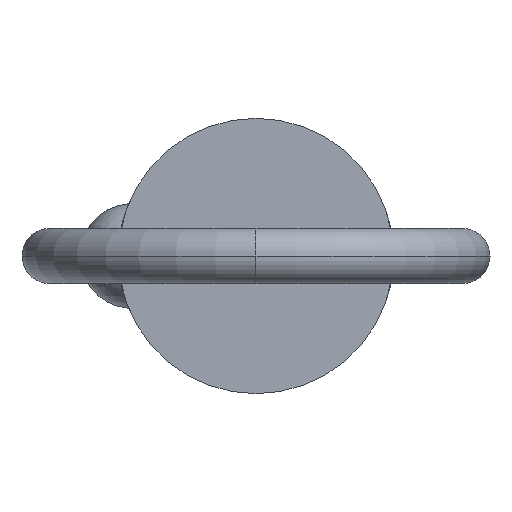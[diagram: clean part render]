
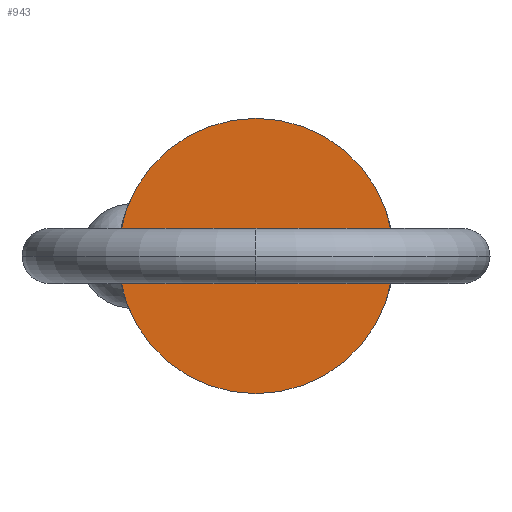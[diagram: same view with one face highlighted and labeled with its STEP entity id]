
A CAD part, left-side view. The second image highlights one B-rep face of the part: STEP entity #943.
In plain terms, the highlighted planar face has unit normal (-1, 0, 0).
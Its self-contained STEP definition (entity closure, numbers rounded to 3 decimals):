
#27 = FACE_OUTER_BOUND ( 'NONE', #398, .T. ) ;
#40 = CARTESIAN_POINT ( 'NONE',  ( 0., 0., 0. ) ) ;
#182 = CARTESIAN_POINT ( 'NONE',  ( 0., 0., 0. ) ) ;
#244 = PLANE ( 'NONE',  #280 ) ;
#256 = EDGE_CURVE ( 'NONE', #547, #981, #476, .T. ) ;
#280 = AXIS2_PLACEMENT_3D ( 'NONE', #182, #635, #641 ) ;
#303 = ORIENTED_EDGE ( 'NONE', *, *, #256, .F. ) ;
#331 = CIRCLE ( 'NONE', #477, 12.7 ) ;
#335 = CARTESIAN_POINT ( 'NONE',  ( 0., 0., -12.7 ) ) ;
#336 = CARTESIAN_POINT ( 'NONE',  ( 0., 0., 12.7 ) ) ;
#339 = CARTESIAN_POINT ( 'NONE',  ( 0., 0., 0. ) ) ;
#398 = EDGE_LOOP ( 'NONE', ( #303, #531 ) ) ;
#476 = CIRCLE ( 'NONE', #655, 12.7 ) ;
#477 = AXIS2_PLACEMENT_3D ( 'NONE', #40, #753, #834 ) ;
#497 = DIRECTION ( 'NONE',  ( 1., 0., 0. ) ) ;
#531 = ORIENTED_EDGE ( 'NONE', *, *, #562, .F. ) ;
#547 = VERTEX_POINT ( 'NONE', #335 ) ;
#562 = EDGE_CURVE ( 'NONE', #981, #547, #331, .T. ) ;
#635 = DIRECTION ( 'NONE',  ( -1., 0., 0. ) ) ;
#641 = DIRECTION ( 'NONE',  ( 0., 0., 1. ) ) ;
#655 = AXIS2_PLACEMENT_3D ( 'NONE', #339, #497, #807 ) ;
#753 = DIRECTION ( 'NONE',  ( 1., 0., 0. ) ) ;
#807 = DIRECTION ( 'NONE',  ( 0., 0., -1. ) ) ;
#834 = DIRECTION ( 'NONE',  ( 0., 0., -1. ) ) ;
#943 = ADVANCED_FACE ( 'NONE', ( #27 ), #244, .T. ) ;
#981 = VERTEX_POINT ( 'NONE', #336 ) ;
